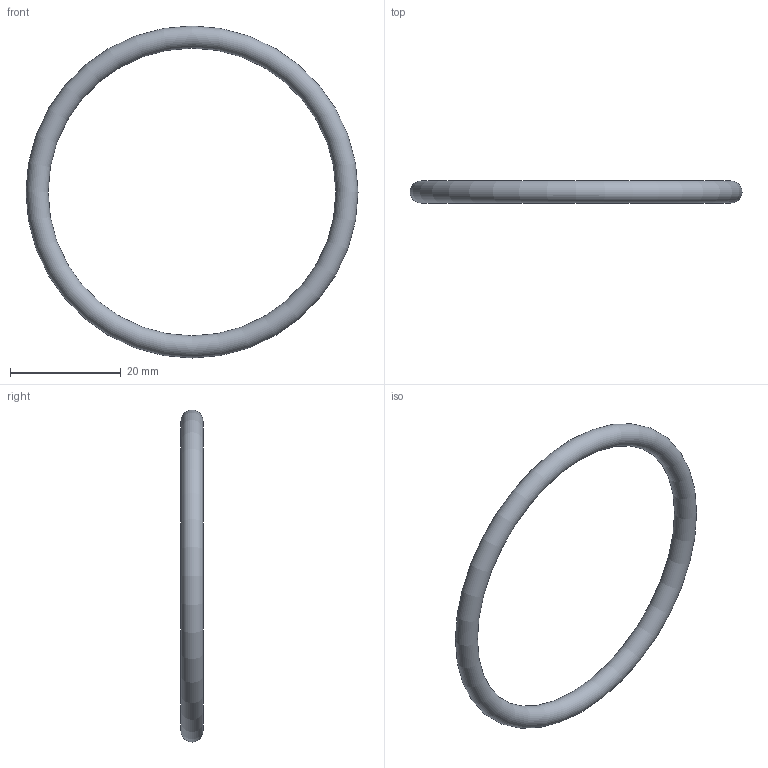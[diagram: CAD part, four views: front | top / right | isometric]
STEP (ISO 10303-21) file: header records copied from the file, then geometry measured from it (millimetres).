
FILE_DESCRIPTION( ( 'STEP AP203' ), '1' );
FILE_NAME( 'C:/Temp/Ganter_Step_05_03_2020/data/3_5/or638/O-Ring OR638-52.00-4.00-70.stp', '2020-03-12T13:44:33', ( 'License CC BY-ND 4.0' ), ( 'CADENAS' ), ' ', 'PARTsolutions', ' ' );
FILE_SCHEMA( ( 'CONFIG_CONTROL_DESIGN' ) );
Length unit declared in the file: millimetre
Products named in the file (1): _O-Ring OR638-52.00-4.00-70
Bounding box: 60 x 4 x 60 mm (x, y, z)
Volume: 2210.8 mm3; surface area: 2210.8 mm2
Topology: 1 solids, 1 shells, 1 faces, 2 edges, 1 vertices
Faces by surface type: torus 1
Entity records: 62 total; most frequent: CC_DESIGN_PERSON_AND_ORGANIZATION_ASSIGNMENT 5, PERSON_AND_ORGANIZATION_ROLE 4, DIRECTION 4, CARTESIAN_POINT 3, DATE_TIME_ROLE 2, CC_DESIGN_DATE_AND_TIME_ASSIGNMENT 2, AXIS2_PLACEMENT_3D 2, DIMENSIONAL_EXPONENTS 2
